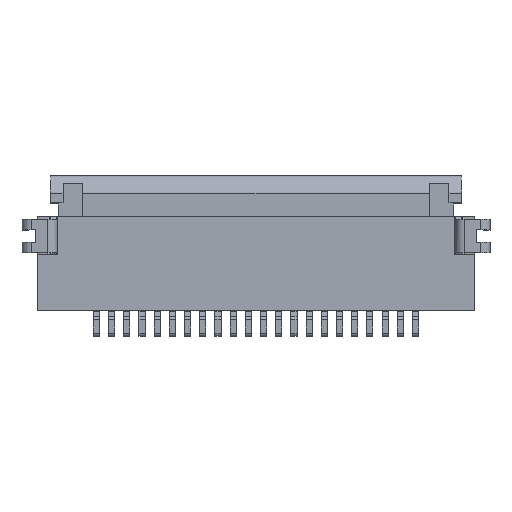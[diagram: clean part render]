
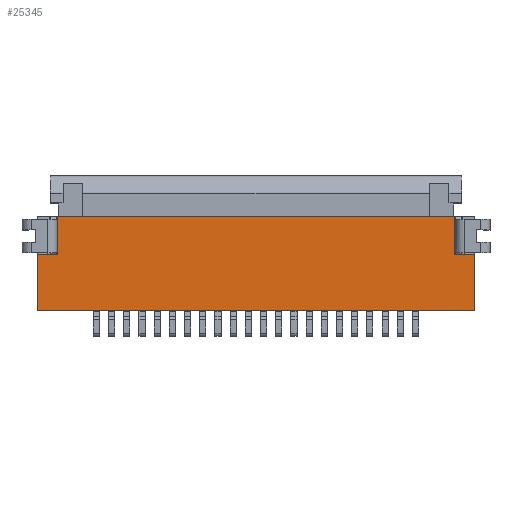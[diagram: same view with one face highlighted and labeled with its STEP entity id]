
A CAD part, top view. The second image highlights one B-rep face of the part: STEP entity #25345.
In plain terms, the highlighted planar face has unit normal (0, 0, 1).
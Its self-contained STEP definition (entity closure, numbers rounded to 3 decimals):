
#5=DIRECTION('',(0.,-1.,0.));
#6=VECTOR('',#5,1.85);
#7=CARTESIAN_POINT('',(-7.2,-1.25,1.55));
#8=LINE('',#7,#6);
#37=DIRECTION('',(-1.,0.,0.));
#38=VECTOR('',#37,0.67);
#39=CARTESIAN_POINT('',(-6.53,-1.25,1.55));
#40=LINE('',#39,#38);
#612=DIRECTION('',(1.,0.,0.));
#613=VECTOR('',#612,14.4);
#614=CARTESIAN_POINT('',(-7.2,-3.1,1.55));
#615=LINE('',#614,#613);
#1016=DIRECTION('',(0.,-1.,0.));
#1017=VECTOR('',#1016,1.25);
#1018=CARTESIAN_POINT('',(-6.53,0.,1.55));
#1019=LINE('',#1018,#1017);
#1020=DIRECTION('',(1.,0.,0.));
#1021=VECTOR('',#1020,13.06);
#1022=CARTESIAN_POINT('',(-6.53,0.,1.55));
#1023=LINE('',#1022,#1021);
#1024=DIRECTION('',(0.,-1.,0.));
#1025=VECTOR('',#1024,1.25);
#1026=CARTESIAN_POINT('',(6.53,0.,1.55));
#1027=LINE('',#1026,#1025);
#5114=DIRECTION('',(0.,-1.,0.));
#5115=VECTOR('',#5114,1.85);
#5116=CARTESIAN_POINT('',(7.2,-1.25,1.55));
#5117=LINE('',#5116,#5115);
#5122=DIRECTION('',(-1.,0.,0.));
#5123=VECTOR('',#5122,0.67);
#5124=CARTESIAN_POINT('',(7.2,-1.25,1.55));
#5125=LINE('',#5124,#5123);
#18543=CARTESIAN_POINT('',(-7.2,-3.1,1.55));
#18545=VERTEX_POINT('',#18543);
#18549=CARTESIAN_POINT('',(7.2,-3.1,1.55));
#18551=VERTEX_POINT('',#18549);
#18555=CARTESIAN_POINT('',(7.2,-1.25,1.55));
#18557=VERTEX_POINT('',#18555);
#18581=CARTESIAN_POINT('',(6.53,0.,1.55));
#18582=CARTESIAN_POINT('',(6.53,-1.25,1.55));
#18583=VERTEX_POINT('',#18581);
#18584=VERTEX_POINT('',#18582);
#18743=CARTESIAN_POINT('',(-6.53,-1.25,1.55));
#18744=VERTEX_POINT('',#18743);
#18799=CARTESIAN_POINT('',(-7.2,-1.25,1.55));
#18801=VERTEX_POINT('',#18799);
#18815=CARTESIAN_POINT('',(-6.53,0.,1.55));
#18816=VERTEX_POINT('',#18815);
#25325=CARTESIAN_POINT('',(-7.2,0.,1.55));
#25326=DIRECTION('',(0.,0.,1.));
#25327=DIRECTION('',(0.,-1.,0.));
#25328=AXIS2_PLACEMENT_3D('',#25325,#25326,#25327);
#25329=PLANE('',#25328);
#25330=ORIENTED_EDGE('',*,*,#24279,.F.);
#25332=ORIENTED_EDGE('',*,*,#25331,.F.);
#25334=ORIENTED_EDGE('',*,*,#25333,.T.);
#25336=ORIENTED_EDGE('',*,*,#25335,.T.);
#25338=ORIENTED_EDGE('',*,*,#25337,.F.);
#25340=ORIENTED_EDGE('',*,*,#25339,.T.);
#25341=ORIENTED_EDGE('',*,*,#25058,.F.);
#25342=ORIENTED_EDGE('',*,*,#24251,.F.);
#25343=EDGE_LOOP('',(#25330,#25332,#25334,#25336,#25338,#25340,#25341,#25342));
#25344=FACE_OUTER_BOUND('',#25343,.F.);
#25345=ADVANCED_FACE('',(#25344),#25329,.T.);
#24251=EDGE_CURVE('',#18801,#18545,#8,.T.);
#24279=EDGE_CURVE('',#18744,#18801,#40,.T.);
#25058=EDGE_CURVE('',#18545,#18551,#615,.T.);
#25331=EDGE_CURVE('',#18816,#18744,#1019,.T.);
#25333=EDGE_CURVE('',#18816,#18583,#1023,.T.);
#25335=EDGE_CURVE('',#18583,#18584,#1027,.T.);
#25337=EDGE_CURVE('',#18557,#18584,#5125,.T.);
#25339=EDGE_CURVE('',#18557,#18551,#5117,.T.);
